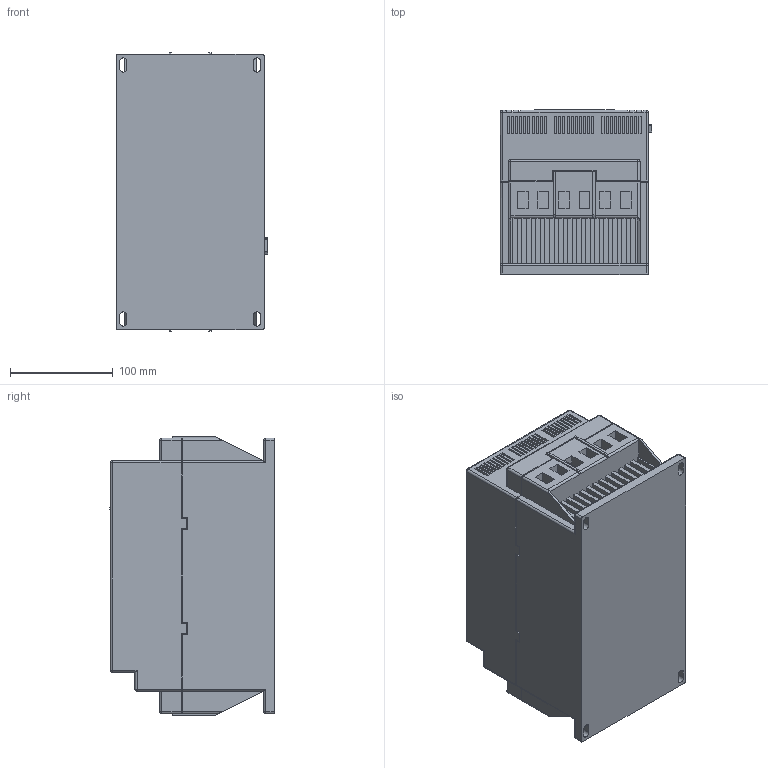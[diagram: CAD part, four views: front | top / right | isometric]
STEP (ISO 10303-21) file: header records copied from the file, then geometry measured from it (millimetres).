
FILE_DESCRIPTION(('STEP AP203'), '1');
FILE_NAME('ﾓﾏﾏ _ SSI-5.5_11-04', '', ('UNSPECIFIED'), ('UNSPECIFIED'), 'C3D Converter', 'C3D Toolkit', '');
FILE_SCHEMA(('CONFIG_CONTROL_DESIGN'));
Length unit declared in the file: millimetre
Products named in the file (3): SSI-22_43-04; SSI-KP
Assembly tree (2 placements, depth 2):
  SSI-22_43-04
    SSI-22_43-04
    SSI-KP
Bounding box: 147.5 x 160.12 x 271 mm (x, y, z)
Volume: 5464248.5 mm3; surface area: 298578.2 mm2
Topology: 2 solids, 2 shells, 984 faces, 2614 edges, 1713 vertices
Faces by surface type: plane 853, cylinder 116, sphere 14, torus 1
Full cylindrical faces by diameter (mm): 4.8 x12, 8 x9, 12 x6
Entity records: 36666 total; most frequent: CARTESIAN_POINT 5419, ORIENTED_EDGE 5146, DIRECTION 4840, EDGE_CURVE 2573, LINE 2256, VECTOR 2256, VERTEX_POINT 1713, AXIS2_PLACEMENT_3D 1292
